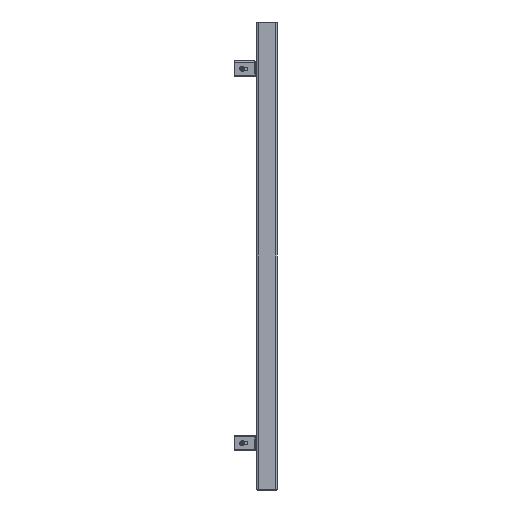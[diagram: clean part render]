
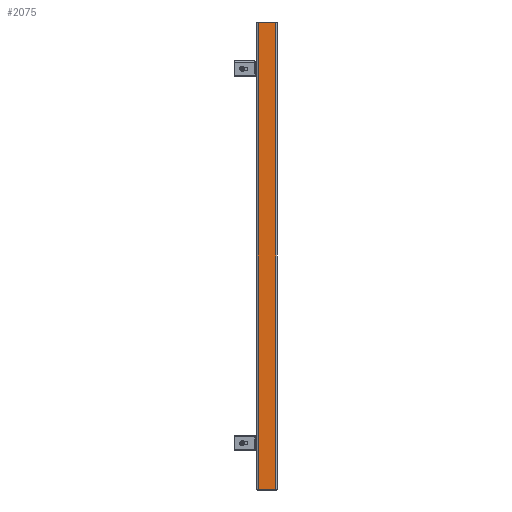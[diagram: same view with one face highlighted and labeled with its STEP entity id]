
A CAD part, left-side view. The second image highlights one B-rep face of the part: STEP entity #2075.
In plain terms, the highlighted planar face has unit normal (-1, 0, 0).
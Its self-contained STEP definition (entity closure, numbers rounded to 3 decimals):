
#1726=CARTESIAN_POINT('',(-290.0,-17.,1.5));
#1727=VERTEX_POINT('',#1726);
#1878=CARTESIAN_POINT('',(-290.0,17.,1.5));
#1879=VERTEX_POINT('',#1878);
#1896=CARTESIAN_POINT('',(-290.0,-17.,1.5));
#1897=DIRECTION('',(0.0,1.0,0.0));
#1898=VECTOR('',#1897,34.0);
#1899=LINE('',#1896,#1898);
#1900=EDGE_CURVE('',#1727,#1879,#1899,.T.);
#2045=CARTESIAN_POINT('',(-290.0,-17.,0.0));
#2046=DIRECTION('',(-1.0,0.0,0.0));
#2047=DIRECTION('',(0.0,0.0,1.0));
#2048=AXIS2_PLACEMENT_3D('',#2045,#2046,#2047);
#2049=PLANE('',#2048);
#2050=ORIENTED_EDGE('',*,*,#1900,.F.);
#2051=CARTESIAN_POINT('',(-290.0,-17.,898.5));
#2052=VERTEX_POINT('',#2051);
#2053=CARTESIAN_POINT('',(-290.0,-17.,1.5));
#2054=DIRECTION('',(0.0,0.0,1.0));
#2055=VECTOR('',#2054,897.0);
#2056=LINE('',#2053,#2055);
#2057=EDGE_CURVE('',#1727,#2052,#2056,.T.);
#2058=ORIENTED_EDGE('',*,*,#2057,.T.);
#2059=CARTESIAN_POINT('',(-290.0,17.,898.5));
#2060=VERTEX_POINT('',#2059);
#2061=CARTESIAN_POINT('',(-290.0,17.,898.5));
#2062=DIRECTION('',(0.0,-1.0,0.0));
#2063=VECTOR('',#2062,34.0);
#2064=LINE('',#2061,#2063);
#2065=EDGE_CURVE('',#2060,#2052,#2064,.T.);
#2066=ORIENTED_EDGE('',*,*,#2065,.F.);
#2067=CARTESIAN_POINT('',(-290.0,17.,1.5));
#2068=DIRECTION('',(0.0,0.0,1.0));
#2069=VECTOR('',#2068,897.0);
#2070=LINE('',#2067,#2069);
#2071=EDGE_CURVE('',#1879,#2060,#2070,.T.);
#2072=ORIENTED_EDGE('',*,*,#2071,.F.);
#2073=EDGE_LOOP('',(#2050,#2058,#2066,#2072));
#2074=FACE_OUTER_BOUND('',#2073,.T.);
#2075=ADVANCED_FACE('',(#2074),#2049,.T.);
